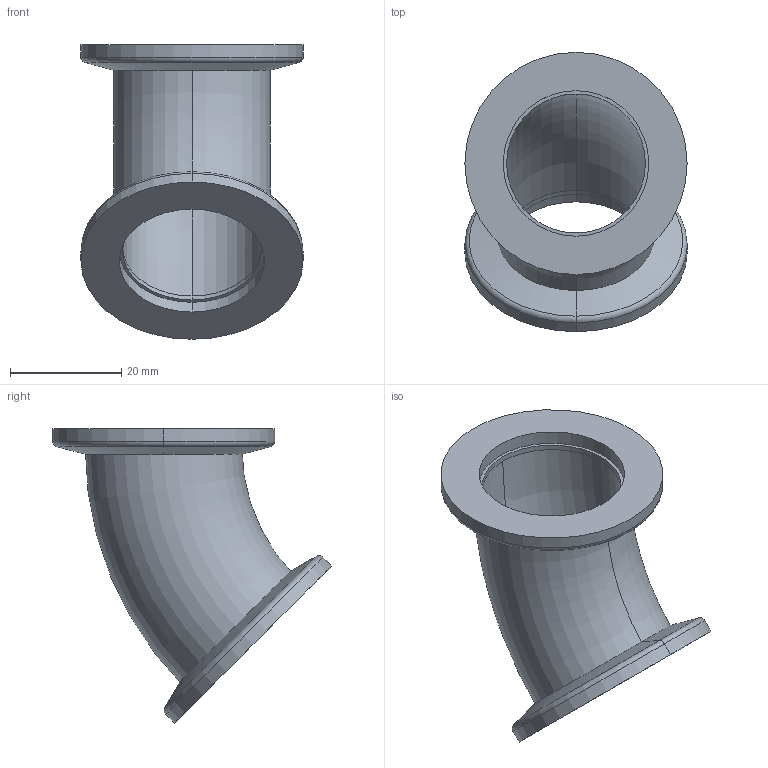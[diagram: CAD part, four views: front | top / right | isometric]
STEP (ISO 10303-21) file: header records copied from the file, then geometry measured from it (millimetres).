
FILE_DESCRIPTION (( 'STEP AP214' ), '1' );
FILE_NAME ('W3RB25-45.STEP', '2020-01-21T09:59:40', ( '' ), ( '' ), 'SwSTEP 2.0', 'SolidWorks 2018', '' );
FILE_SCHEMA (( 'AUTOMOTIVE_DESIGN' ));
Length unit declared in the file: millimetre
Products named in the file (1): W3RB25-45
Bounding box: 40 x 50.24 x 53 mm (x, y, z)
Volume: 10283.2 mm3; surface area: 10936.3 mm2
Topology: 3 solids, 3 shells, 36 faces, 72 edges, 44 vertices
Faces by surface type: cylinder 14, torus 8, plane 8, cone 6
Entity records: 1016 total; most frequent: DIRECTION 198, CARTESIAN_POINT 153, ORIENTED_EDGE 144, AXIS2_PLACEMENT_3D 89, EDGE_CURVE 72, CIRCLE 52, VERTEX_POINT 44, EDGE_LOOP 44
